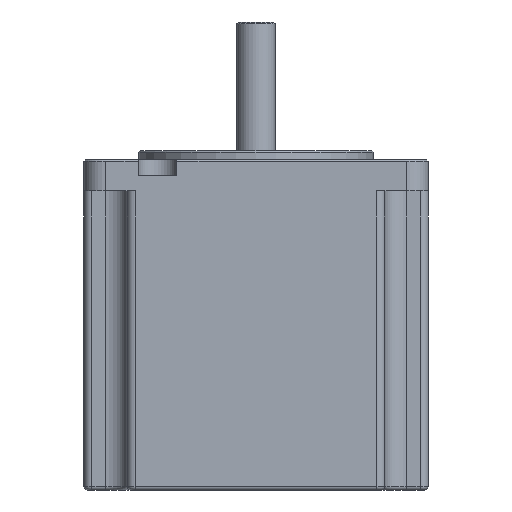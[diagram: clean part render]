
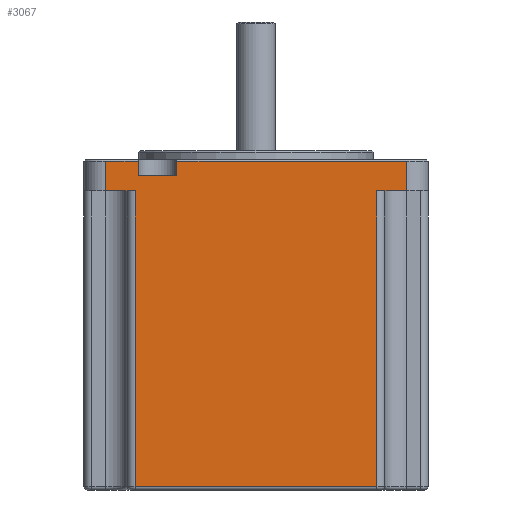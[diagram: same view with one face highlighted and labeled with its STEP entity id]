
A CAD part, front view. The second image highlights one B-rep face of the part: STEP entity #3067.
In plain terms, the highlighted planar face has unit normal (0, -1, 0).
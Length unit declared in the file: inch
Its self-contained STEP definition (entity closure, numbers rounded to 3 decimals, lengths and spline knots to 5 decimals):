
#232=DIRECTION('',(1.,0.,0.));
#233=VECTOR('',#232,0.19);
#234=CARTESIAN_POINT('',(0.78,-1.11,-0.2));
#235=LINE('',#234,#233);
#236=DIRECTION('',(1.,0.,0.));
#237=VECTOR('',#236,0.19);
#238=CARTESIAN_POINT('',(-0.97,-1.11,-0.2));
#239=LINE('',#238,#237);
#848=DIRECTION('',(-1.,0.,0.));
#849=VECTOR('',#848,1.56);
#850=CARTESIAN_POINT('',(0.78,-1.11,-2.11));
#851=LINE('',#850,#849);
#852=DIRECTION('',(0.,0.,-1.));
#853=VECTOR('',#852,1.91);
#854=CARTESIAN_POINT('',(-0.78,-1.11,-0.2));
#855=LINE('',#854,#853);
#856=DIRECTION('',(0.,0.,-1.));
#857=VECTOR('',#856,0.19);
#858=CARTESIAN_POINT('',(-0.97,-1.11,
-0.01));
#859=LINE('',#858,#857);
#860=DIRECTION('',(1.,0.,0.));
#861=VECTOR('',#860,0.21);
#862=CARTESIAN_POINT('',(-0.97,-1.11,
-0.01));
#863=LINE('',#862,#861);
#864=DIRECTION('',(0.,0.,-1.));
#865=VECTOR('',#864,0.09);
#866=CARTESIAN_POINT('',(-0.76,-1.11,-0.01));
#867=LINE('',#866,#865);
#868=DIRECTION('',(1.,0.,0.));
#869=VECTOR('',#868,0.25);
#870=CARTESIAN_POINT('',(-0.76,-1.11,-0.1));
#871=LINE('',#870,#869);
#872=DIRECTION('',(0.,0.,-1.));
#873=VECTOR('',#872,0.09);
#874=CARTESIAN_POINT('',(-0.51,-1.11,-0.01));
#875=LINE('',#874,#873);
#876=DIRECTION('',(1.,0.,0.));
#877=VECTOR('',#876,1.48);
#878=CARTESIAN_POINT('',(-0.51,-1.11,-0.01));
#879=LINE('',#878,#877);
#880=DIRECTION('',(0.,0.,1.));
#881=VECTOR('',#880,1.91);
#882=CARTESIAN_POINT('',(0.78,-1.11,-2.11));
#883=LINE('',#882,#881);
#957=DIRECTION('',(0.,0.,-1.));
#958=VECTOR('',#957,0.19);
#959=CARTESIAN_POINT('',(0.97,-1.11,
-0.01));
#960=LINE('',#959,#958);
#1455=CARTESIAN_POINT('',(-0.97,-1.11,-0.2));
#1457=VERTEX_POINT('',#1455);
#1458=CARTESIAN_POINT('',(0.97,-1.11,-0.2));
#1460=VERTEX_POINT('',#1458);
#1514=CARTESIAN_POINT('',(-0.76,-1.11,-0.1));
#1515=CARTESIAN_POINT('',(-0.51,-1.11,-0.1));
#1516=VERTEX_POINT('',#1514);
#1517=VERTEX_POINT('',#1515);
#1552=CARTESIAN_POINT('',(0.78,-1.11,-0.2));
#1553=VERTEX_POINT('',#1552);
#1554=CARTESIAN_POINT('',(-0.78,-1.11,-0.2));
#1555=VERTEX_POINT('',#1554);
#1620=CARTESIAN_POINT('',(0.97,-1.11,-0.01));
#1621=VERTEX_POINT('',#1620);
#1622=CARTESIAN_POINT('',(-0.51,-1.11,-0.01));
#1624=VERTEX_POINT('',#1622);
#1627=CARTESIAN_POINT('',(-0.76,-1.11,-0.01));
#1629=VERTEX_POINT('',#1627);
#1630=CARTESIAN_POINT('',(-0.97,-1.11,
-0.01));
#1631=VERTEX_POINT('',#1630);
#1688=CARTESIAN_POINT('',(0.78,-1.11,-2.11));
#1689=VERTEX_POINT('',#1688);
#1692=CARTESIAN_POINT('',(-0.78,-1.11,-2.11));
#1693=VERTEX_POINT('',#1692);
#3044=CARTESIAN_POINT('',(-0.97,-1.11,0.));
#3045=DIRECTION('',(0.,-1.,0.));
#3046=DIRECTION('',(1.,0.,0.));
#3047=AXIS2_PLACEMENT_3D('',#3044,#3045,#3046);
#3048=PLANE('',#3047);
#3049=ORIENTED_EDGE('',*,*,#2386,.T.);
#3051=ORIENTED_EDGE('',*,*,#3050,.F.);
#3052=ORIENTED_EDGE('',*,*,#2005,.F.);
#3054=ORIENTED_EDGE('',*,*,#3053,.F.);
#3055=ORIENTED_EDGE('',*,*,#2756,.T.);
#3056=ORIENTED_EDGE('',*,*,#2774,.T.);
#3057=ORIENTED_EDGE('',*,*,#3011,.T.);
#3058=ORIENTED_EDGE('',*,*,#2800,.F.);
#3059=ORIENTED_EDGE('',*,*,#2818,.T.);
#3061=ORIENTED_EDGE('',*,*,#3060,.T.);
#3062=ORIENTED_EDGE('',*,*,#1987,.F.);
#3064=ORIENTED_EDGE('',*,*,#3063,.F.);
#3065=EDGE_LOOP('',(#3049,#3051,#3052,#3054,#3055,#3056,#3057,#3058,#3059,#3061,
#3062,#3064));
#3066=FACE_OUTER_BOUND('',#3065,.F.);
#3067=ADVANCED_FACE('',(#3066),#3048,.T.);
#1987=EDGE_CURVE('',#1553,#1460,#235,.T.);
#2005=EDGE_CURVE('',#1457,#1555,#239,.T.);
#2386=EDGE_CURVE('',#1689,#1693,#851,.T.);
#2756=EDGE_CURVE('',#1631,#1629,#863,.T.);
#2774=EDGE_CURVE('',#1629,#1516,#867,.T.);
#2800=EDGE_CURVE('',#1624,#1517,#875,.T.);
#2818=EDGE_CURVE('',#1624,#1621,#879,.T.);
#3011=EDGE_CURVE('',#1516,#1517,#871,.T.);
#3050=EDGE_CURVE('',#1555,#1693,#855,.T.);
#3053=EDGE_CURVE('',#1631,#1457,#859,.T.);
#3060=EDGE_CURVE('',#1621,#1460,#960,.T.);
#3063=EDGE_CURVE('',#1689,#1553,#883,.T.);
